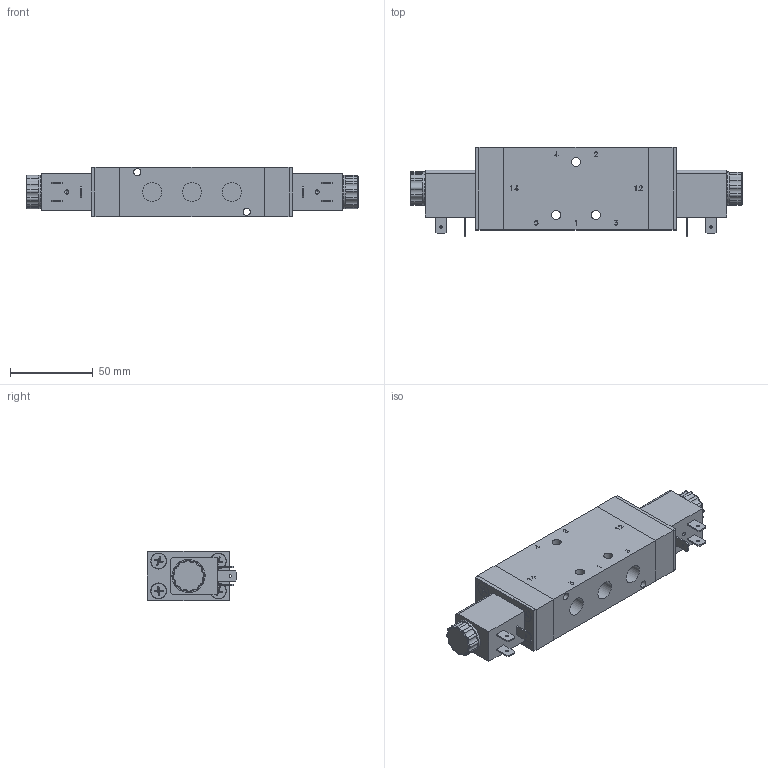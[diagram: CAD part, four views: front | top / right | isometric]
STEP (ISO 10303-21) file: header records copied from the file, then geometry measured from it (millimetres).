
FILE_DESCRIPTION (( 'STEP AP214' ), '1' );
FILE_NAME ('ICK-10-520-HN-F42_Airtec.step', '2019-01-08T09:08:23', ( '' ), ( '' ), 'SwSTEP 2.0', 'SolidWorks 2010', '' );
FILE_SCHEMA (( 'AUTOMOTIVE_DESIGN' ));
Length unit declared in the file: millimetre
Products named in the file (3): Volumenkörper4; Volumenkörper1; ICK-10-520-HN-F42_Airtec
Assembly tree (3 placements, depth 2):
  ICK-10-520-HN-F42_Airtec
    Volumenkörper4
    Volumenkörper1  x2
Bounding box: 200.2 x 54.2 x 30 mm (x, y, z)
Volume: 213175.4 mm3; surface area: 44052.6 mm2
Topology: 3 solids, 3 shells, 1047 faces, 2796 edges, 1814 vertices
Faces by surface type: plane 677, cylinder 150, torus 98, cone 94, bspline 28
Full cylindrical faces by diameter (mm): 1.5 x6, 2.459 x2, 4.3 x2, 5.5 x3, 8 x2, 8.15 x2, 9.04 x4, 9.1 x2, 9.3 x8, 11.445 x5, 15 x2, 16.6 x2, 20 x2
Entity records: 40812 total; most frequent: CARTESIAN_POINT 9670, ORIENTED_EDGE 5204, DIRECTION 4792, EDGE_CURVE 2602, VERTEX_POINT 1718, VECTOR 1692, LINE 1692, AXIS2_PLACEMENT_3D 1550
